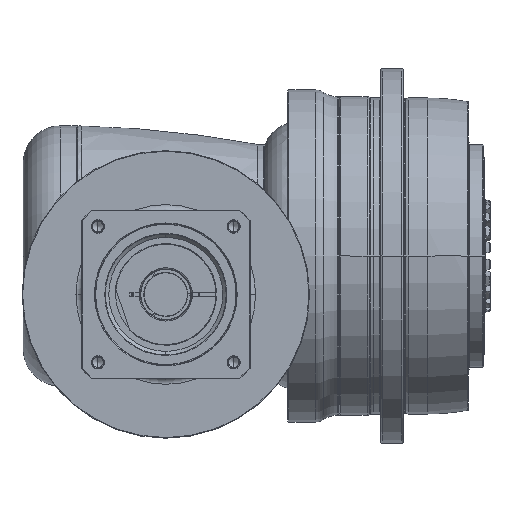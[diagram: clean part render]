
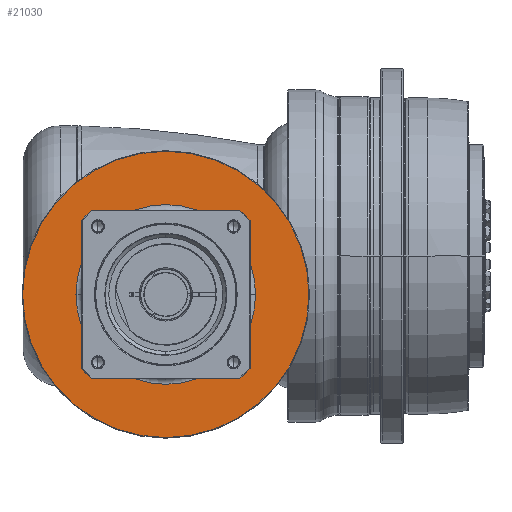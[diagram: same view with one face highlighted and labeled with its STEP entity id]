
A CAD part, front view. The second image highlights one B-rep face of the part: STEP entity #21030.
In plain terms, the highlighted planar face has unit normal (0, -1, 0) as drawn and (1, 0, 0) by its records, which use the part's own axes.
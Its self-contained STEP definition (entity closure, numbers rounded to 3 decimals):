
#20509=CARTESIAN_POINT('',(-7.5,0.,0.));
#20510=DIRECTION('',(-1.,0.,0.));
#20511=DIRECTION('',(0.,-1.,0.));
#20512=AXIS2_PLACEMENT_3D('',#20509,#20510,#20511);
#20514=CARTESIAN_POINT('',(-7.5,0.,0.));
#20515=DIRECTION('',(-1.,0.,0.));
#20516=DIRECTION('',(0.,1.,0.));
#20517=AXIS2_PLACEMENT_3D('',#20514,#20515,#20516);
#20519=CARTESIAN_POINT('',(-7.5,0.,0.));
#20520=DIRECTION('',(-1.,0.,0.));
#20521=DIRECTION('',(0.,-1.,0.));
#20522=AXIS2_PLACEMENT_3D('',#20519,#20520,#20521);
#20524=CARTESIAN_POINT('',(-7.5,0.,0.));
#20525=DIRECTION('',(-1.,0.,0.));
#20526=DIRECTION('',(0.,1.,0.));
#20527=AXIS2_PLACEMENT_3D('',#20524,#20525,#20526);
#20593=CARTESIAN_POINT('',(-7.5,-115.5,0.));
#20594=CARTESIAN_POINT('',(-7.5,115.5,0.));
#20595=VERTEX_POINT('',#20593);
#20596=VERTEX_POINT('',#20594);
#20617=CARTESIAN_POINT('',(-7.5,-72.5,0.));
#20618=CARTESIAN_POINT('',(-7.5,72.5,0.));
#20619=VERTEX_POINT('',#20617);
#20620=VERTEX_POINT('',#20618);
#21015=CARTESIAN_POINT('',(-7.5,0.,0.));
#21016=DIRECTION('',(1.,0.,0.));
#21017=DIRECTION('',(0.,-1.,0.));
#21018=AXIS2_PLACEMENT_3D('',#21015,#21016,#21017);
#21019=PLANE('',#21018);
#21020=ORIENTED_EDGE('',*,*,#20956,.T.);
#21021=ORIENTED_EDGE('',*,*,#20971,.T.);
#21022=EDGE_LOOP('',(#21020,#21021));
#21023=FACE_OUTER_BOUND('',#21022,.F.);
#21025=ORIENTED_EDGE('',*,*,#21024,.F.);
#21027=ORIENTED_EDGE('',*,*,#21026,.F.);
#21028=EDGE_LOOP('',(#21025,#21027));
#21029=FACE_BOUND('',#21028,.F.);
#21030=ADVANCED_FACE('',(#21023,#21029),#21019,.T.);
#20513=CIRCLE('',#20512,72.5);
#20518=CIRCLE('',#20517,72.5);
#20523=CIRCLE('',#20522,115.5);
#20528=CIRCLE('',#20527,115.5);
#20956=EDGE_CURVE('',#20595,#20596,#20523,.T.);
#20971=EDGE_CURVE('',#20596,#20595,#20528,.T.);
#21024=EDGE_CURVE('',#20619,#20620,#20513,.T.);
#21026=EDGE_CURVE('',#20620,#20619,#20518,.T.);
